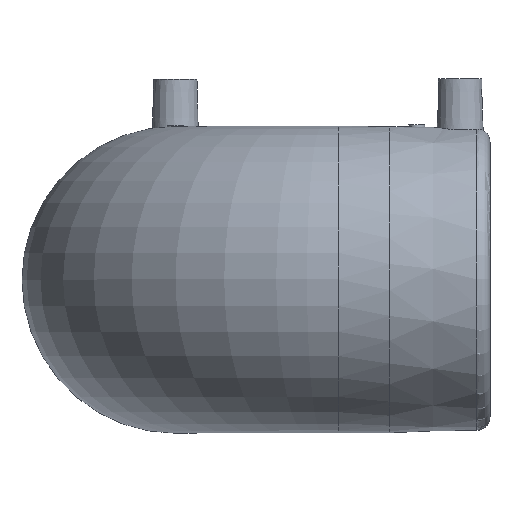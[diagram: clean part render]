
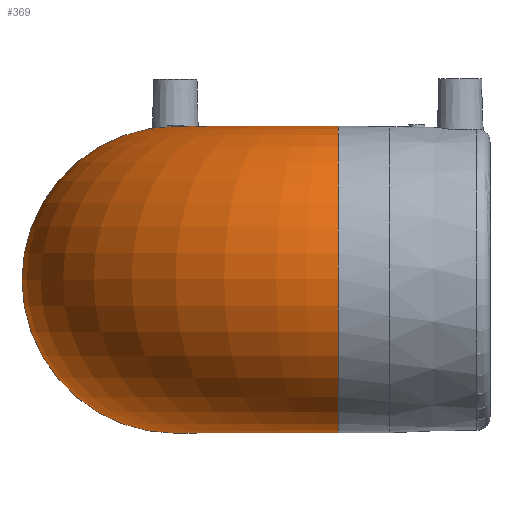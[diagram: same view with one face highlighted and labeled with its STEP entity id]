
A CAD part, top view. The second image highlights one B-rep face of the part: STEP entity #369.
In plain terms, the highlighted toroidal (fillet/blend) face has major radius 60 mm and minor radius 56.5 mm.
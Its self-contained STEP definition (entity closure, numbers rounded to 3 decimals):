
#47=TOROIDAL_SURFACE('',#426,60.,56.5);
#56=CIRCLE('',#418,56.5);
#58=CIRCLE('',#422,56.5);
#101=ORIENTED_EDGE('',*,*,#166,.F.);
#102=ORIENTED_EDGE('',*,*,#168,.T.);
#166=EDGE_CURVE('',#203,#203,#56,.F.);
#168=EDGE_CURVE('',#205,#205,#58,.F.);
#203=VERTEX_POINT('',#668);
#205=VERTEX_POINT('',#674);
#257=EDGE_LOOP('',(#101));
#258=EDGE_LOOP('',(#102));
#316=FACE_BOUND('',#257,.T.);
#317=FACE_BOUND('',#258,.T.);
#369=ADVANCED_FACE('',(#316,#317),#47,.T.);
#418=AXIS2_PLACEMENT_3D('',#667,#492,#493);
#422=AXIS2_PLACEMENT_3D('',#673,#500,#501);
#426=AXIS2_PLACEMENT_3D('',#693,#508,#509);
#492=DIRECTION('',(-1.,0.,0.));
#493=DIRECTION('',(0.,0.,-1.));
#500=DIRECTION('',(0.,0.,-1.));
#501=DIRECTION('',(1.,0.,0.));
#508=DIRECTION('',(0.,1.,0.));
#509=DIRECTION('',(0.,0.,1.));
#667=CARTESIAN_POINT('',(60.,0.,116.));
#668=CARTESIAN_POINT('',(60.,0.,59.5));
#673=CARTESIAN_POINT('',(0.,0.,56.));
#674=CARTESIAN_POINT('',(56.5,0.,56.));
#693=CARTESIAN_POINT('',(60.,0.,56.));
